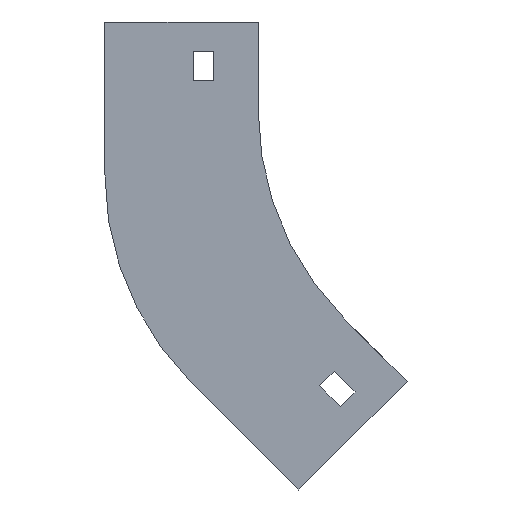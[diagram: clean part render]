
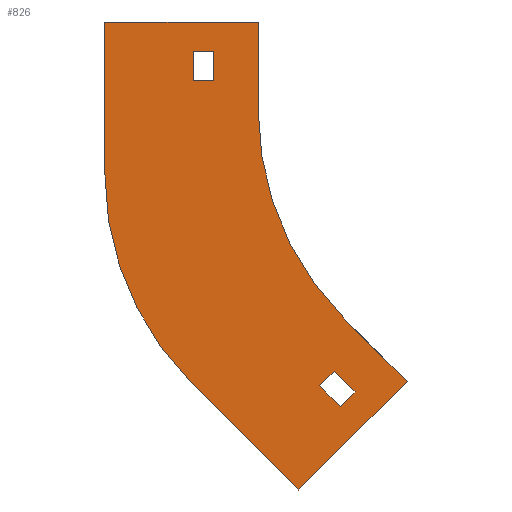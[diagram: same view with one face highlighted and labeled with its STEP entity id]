
A CAD part, left-side view. The second image highlights one B-rep face of the part: STEP entity #826.
In plain terms, the highlighted planar face has unit normal (-1, 0, 0).
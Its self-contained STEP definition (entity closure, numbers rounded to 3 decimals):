
#4 = DIRECTION ( 'NONE',  ( 0., 0.707, -0.707 ) ) ;
#19 = ORIENTED_EDGE ( 'NONE', *, *, #1321, .F. ) ;
#28 = CARTESIAN_POINT ( 'NONE',  ( -27., -48., -51.539 ) ) ;
#30 = EDGE_CURVE ( 'NONE', #454, #502, #189, .T. ) ;
#50 = CARTESIAN_POINT ( 'NONE',  ( -27., -27.875, -130.409 ) ) ;
#54 = CARTESIAN_POINT ( 'NONE',  ( -27., 22., -20. ) ) ;
#63 = LINE ( 'NONE', #496, #473 ) ;
#64 = ORIENTED_EDGE ( 'NONE', *, *, #1345, .F. ) ;
#70 = VECTOR ( 'NONE', #1301, 1000. ) ;
#75 = EDGE_LOOP ( 'NONE', ( #215, #818, #466, #620 ) ) ;
#92 = DIRECTION ( 'NONE',  ( 0., 0.707, 0.707 ) ) ;
#96 = ORIENTED_EDGE ( 'NONE', *, *, #573, .F. ) ;
#106 = CARTESIAN_POINT ( 'NONE',  ( -27., -27.875, -130.409 ) ) ;
#122 = VERTEX_POINT ( 'NONE', #129 ) ;
#129 = CARTESIAN_POINT ( 'NONE',  ( -27., 22., -10. ) ) ;
#138 = DIRECTION ( 'NONE',  ( -1., 0., 0. ) ) ;
#142 = EDGE_CURVE ( 'NONE', #1221, #880, #954, .T. ) ;
#155 = DIRECTION ( 'NONE',  ( 0., 0.707, 0.707 ) ) ;
#164 = CARTESIAN_POINT ( 'NONE',  ( -27., 22., -20. ) ) ;
#174 = VECTOR ( 'NONE', #155, 1000. ) ;
#184 = VECTOR ( 'NONE', #1038, 1000. ) ;
#187 = CARTESIAN_POINT ( 'NONE',  ( -27., 52., 0. ) ) ;
#189 = CIRCLE ( 'NONE', #1154, 100. ) ;
#215 = ORIENTED_EDGE ( 'NONE', *, *, #476, .F. ) ;
#220 = CARTESIAN_POINT ( 'NONE',  ( -27., 15., -10. ) ) ;
#226 = CARTESIAN_POINT ( 'NONE',  ( -27., 15., -10. ) ) ;
#242 = EDGE_CURVE ( 'NONE', #1283, #122, #351, .T. ) ;
#246 = VERTEX_POINT ( 'NONE', #50 ) ;
#263 = DIRECTION ( 'NONE',  ( 0., 0., -1. ) ) ;
#281 = VERTEX_POINT ( 'NONE', #187 ) ;
#282 = CARTESIAN_POINT ( 'NONE',  ( -27., 52., 0. ) ) ;
#285 = CARTESIAN_POINT ( 'NONE',  ( -27., -27.875, -130.409 ) ) ;
#315 = VECTOR ( 'NONE', #1248, 1000. ) ;
#330 = CARTESIAN_POINT ( 'NONE',  ( -27., -32.825, -125.459 ) ) ;
#333 = EDGE_CURVE ( 'NONE', #369, #246, #484, .T. ) ;
#351 = LINE ( 'NONE', #1229, #442 ) ;
#369 = VERTEX_POINT ( 'NONE', #919 ) ;
#380 = LINE ( 'NONE', #164, #890 ) ;
#385 = DIRECTION ( 'NONE',  ( 0., -1., 0. ) ) ;
#387 = VERTEX_POINT ( 'NONE', #1361 ) ;
#396 = CARTESIAN_POINT ( 'NONE',  ( -27., -13.733, -158.693 ) ) ;
#413 = DIRECTION ( 'NONE',  ( 0., 0.707, -0.707 ) ) ;
#414 = VERTEX_POINT ( 'NONE', #794 ) ;
#427 = LINE ( 'NONE', #1277, #1290 ) ;
#431 = LINE ( 'NONE', #839, #472 ) ;
#442 = VECTOR ( 'NONE', #1119, 1000. ) ;
#454 = VERTEX_POINT ( 'NONE', #722 ) ;
#457 = CARTESIAN_POINT ( 'NONE',  ( -27., -100., -30. ) ) ;
#466 = ORIENTED_EDGE ( 'NONE', *, *, #333, .F. ) ;
#472 = VECTOR ( 'NONE', #1054, 1000. ) ;
#473 = VECTOR ( 'NONE', #1233, 1000. ) ;
#476 = EDGE_CURVE ( 'NONE', #859, #414, #1403, .T. ) ;
#484 = LINE ( 'NONE', #285, #315 ) ;
#487 = EDGE_CURVE ( 'NONE', #888, #454, #427, .T. ) ;
#490 = FACE_OUTER_BOUND ( 'NONE', #1276, .T. ) ;
#496 = CARTESIAN_POINT ( 'NONE',  ( -27., -29.289, -100.711 ) ) ;
#502 = VERTEX_POINT ( 'NONE', #1269 ) ;
#541 = LINE ( 'NONE', #964, #1382 ) ;
#561 = DIRECTION ( 'NONE',  ( 0., 0., 1. ) ) ;
#567 = DIRECTION ( 'NONE',  ( 1., 0., 0. ) ) ;
#573 = EDGE_CURVE ( 'NONE', #880, #281, #851, .T. ) ;
#605 = VECTOR ( 'NONE', #92, 1000. ) ;
#612 = LINE ( 'NONE', #106, #184 ) ;
#620 = ORIENTED_EDGE ( 'NONE', *, *, #1071, .F. ) ;
#631 = CARTESIAN_POINT ( 'NONE',  ( -27., -20.804, -123.338 ) ) ;
#665 = ORIENTED_EDGE ( 'NONE', *, *, #30, .F. ) ;
#669 = VECTOR ( 'NONE', #825, 1000. ) ;
#678 = EDGE_LOOP ( 'NONE', ( #1402, #997, #1159, #768 ) ) ;
#703 = LINE ( 'NONE', #282, #1349 ) ;
#722 = CARTESIAN_POINT ( 'NONE',  ( -27., 0., -30. ) ) ;
#731 = AXIS2_PLACEMENT_3D ( 'NONE', #28, #567, #263 ) ;
#748 = EDGE_CURVE ( 'NONE', #387, #1283, #380, .T. ) ;
#752 = DIRECTION ( 'NONE',  ( 0., 0., -1. ) ) ;
#768 = ORIENTED_EDGE ( 'NONE', *, *, #242, .T. ) ;
#793 = EDGE_CURVE ( 'NONE', #502, #995, #63, .T. ) ;
#794 = CARTESIAN_POINT ( 'NONE',  ( -27., -25.754, -118.388 ) ) ;
#815 = FACE_BOUND ( 'NONE', #678, .T. ) ;
#816 = ORIENTED_EDGE ( 'NONE', *, *, #793, .F. ) ;
#818 = ORIENTED_EDGE ( 'NONE', *, *, #940, .F. ) ;
#823 = CARTESIAN_POINT ( 'NONE',  ( -27., 52., -51.539 ) ) ;
#825 = DIRECTION ( 'NONE',  ( 0., 0., 1. ) ) ;
#826 = ADVANCED_FACE ( 'NONE', ( #815, #490, #1259 ), #1022, .T. ) ;
#839 = CARTESIAN_POINT ( 'NONE',  ( -27., 22., -10. ) ) ;
#840 = VERTEX_POINT ( 'NONE', #1293 ) ;
#851 = LINE ( 'NONE', #1393, #669 ) ;
#859 = VERTEX_POINT ( 'NONE', #1401 ) ;
#862 = VERTEX_POINT ( 'NONE', #220 ) ;
#880 = VERTEX_POINT ( 'NONE', #823 ) ;
#888 = VERTEX_POINT ( 'NONE', #1184 ) ;
#890 = VECTOR ( 'NONE', #1116, 1000. ) ;
#917 = CARTESIAN_POINT ( 'NONE',  ( -27., -100., -30. ) ) ;
#919 = CARTESIAN_POINT ( 'NONE',  ( -27., -20.804, -123.338 ) ) ;
#937 = EDGE_CURVE ( 'NONE', #122, #862, #431, .T. ) ;
#940 = EDGE_CURVE ( 'NONE', #246, #859, #612, .T. ) ;
#954 = CIRCLE ( 'NONE', #731, 100. ) ;
#964 = CARTESIAN_POINT ( 'NONE',  ( -27., -50.503, -121.924 ) ) ;
#983 = EDGE_CURVE ( 'NONE', #862, #387, #1190, .T. ) ;
#995 = VERTEX_POINT ( 'NONE', #1165 ) ;
#997 = ORIENTED_EDGE ( 'NONE', *, *, #983, .T. ) ;
#1022 = PLANE ( 'NONE',  #1263 ) ;
#1038 = DIRECTION ( 'NONE',  ( 0., -0.707, 0.707 ) ) ;
#1054 = DIRECTION ( 'NONE',  ( 0., -1., 0. ) ) ;
#1071 = EDGE_CURVE ( 'NONE', #414, #369, #1297, .T. ) ;
#1095 = EDGE_CURVE ( 'NONE', #995, #840, #541, .T. ) ;
#1116 = DIRECTION ( 'NONE',  ( 0., 1., 0. ) ) ;
#1119 = DIRECTION ( 'NONE',  ( 0., 0., 1. ) ) ;
#1154 = AXIS2_PLACEMENT_3D ( 'NONE', #457, #138, #561 ) ;
#1159 = ORIENTED_EDGE ( 'NONE', *, *, #748, .T. ) ;
#1165 = CARTESIAN_POINT ( 'NONE',  ( -27., -50.503, -121.924 ) ) ;
#1178 = ORIENTED_EDGE ( 'NONE', *, *, #142, .F. ) ;
#1184 = CARTESIAN_POINT ( 'NONE',  ( -27., 0., 0. ) ) ;
#1190 = LINE ( 'NONE', #226, #70 ) ;
#1216 = CARTESIAN_POINT ( 'NONE',  ( -27., 22.711, -122.25 ) ) ;
#1221 = VERTEX_POINT ( 'NONE', #1216 ) ;
#1229 = CARTESIAN_POINT ( 'NONE',  ( -27., 22., -10. ) ) ;
#1233 = DIRECTION ( 'NONE',  ( 0., -0.707, -0.707 ) ) ;
#1245 = DIRECTION ( 'NONE',  ( 0., 0., 1. ) ) ;
#1248 = DIRECTION ( 'NONE',  ( 0., -0.707, -0.707 ) ) ;
#1259 = FACE_BOUND ( 'NONE', #75, .T. ) ;
#1263 = AXIS2_PLACEMENT_3D ( 'NONE', #917, #1358, #1245 ) ;
#1269 = CARTESIAN_POINT ( 'NONE',  ( -27., -29.289, -100.711 ) ) ;
#1276 = EDGE_LOOP ( 'NONE', ( #19, #96, #1178, #64, #1364, #816, #665, #1318 ) ) ;
#1277 = CARTESIAN_POINT ( 'NONE',  ( -27., 0., 0. ) ) ;
#1283 = VERTEX_POINT ( 'NONE', #54 ) ;
#1290 = VECTOR ( 'NONE', #752, 1000. ) ;
#1293 = CARTESIAN_POINT ( 'NONE',  ( -27., -13.733, -158.693 ) ) ;
#1297 = LINE ( 'NONE', #631, #1406 ) ;
#1301 = DIRECTION ( 'NONE',  ( 0., 0., -1. ) ) ;
#1318 = ORIENTED_EDGE ( 'NONE', *, *, #487, .F. ) ;
#1321 = EDGE_CURVE ( 'NONE', #281, #888, #703, .T. ) ;
#1345 = EDGE_CURVE ( 'NONE', #840, #1221, #1372, .T. ) ;
#1349 = VECTOR ( 'NONE', #385, 1000. ) ;
#1358 = DIRECTION ( 'NONE',  ( -1., 0., 0. ) ) ;
#1361 = CARTESIAN_POINT ( 'NONE',  ( -27., 15., -20. ) ) ;
#1364 = ORIENTED_EDGE ( 'NONE', *, *, #1095, .F. ) ;
#1372 = LINE ( 'NONE', #396, #174 ) ;
#1382 = VECTOR ( 'NONE', #4, 1000. ) ;
#1393 = CARTESIAN_POINT ( 'NONE',  ( -27., 52., -51.539 ) ) ;
#1401 = CARTESIAN_POINT ( 'NONE',  ( -27., -32.825, -125.459 ) ) ;
#1402 = ORIENTED_EDGE ( 'NONE', *, *, #937, .T. ) ;
#1403 = LINE ( 'NONE', #330, #605 ) ;
#1406 = VECTOR ( 'NONE', #413, 1000. ) ;
